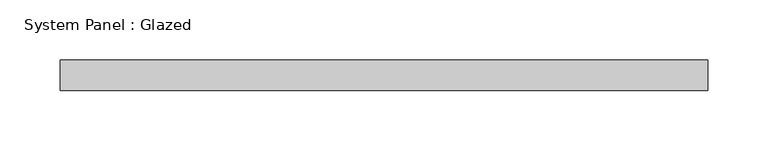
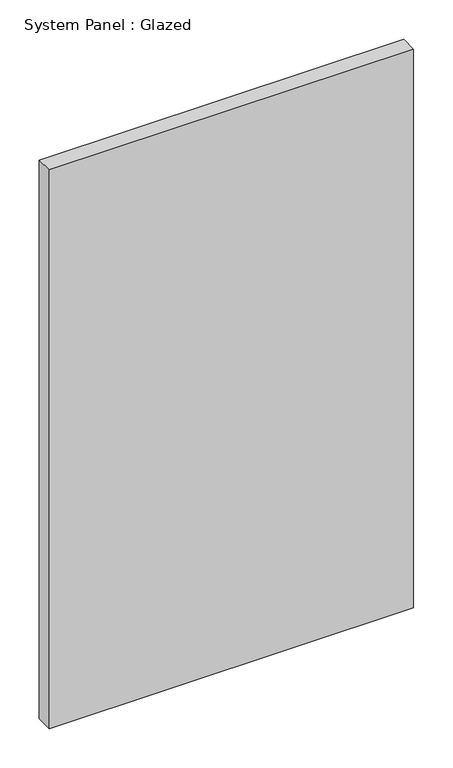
"""IFC4 building model written with IfcOpenShell, lengths in millimetres: plate geometry, System Panel : Glazed."""

from ifc_helpers import new_model, si_unit, origin, origin_with_axes, place, context, project, spatial, polyline, outline, extrude, source, transform, mapped, element, save


def system_panel_glazed_4efe49fa(model_context):
    return source(origin(), model_context, "Body", "SweptSolid", [
        extrude(outline(polyline([(267.5, 24.5), (-267.5, 24.5), (-267.5, 49.5), (267.5, 49.5), (267.5, 24.5)])), origin_with_axes(), (0.0, 0.0, 1.0), 866.6666667),
    ])


if __name__ == "__main__":
    model = new_model("IFC4")
    model_context = context("Model", 3, world=origin())
    ifc_project = project(units=[si_unit("LENGTHUNIT", "METRE", prefix="MILLI")], contexts=[model_context])
    site = spatial("IfcSite", under=ifc_project)
    building = spatial("IfcBuilding", under=site)
    placement = place(None, origin())
    system_panel_glazed_shape = system_panel_glazed_4efe49fa(model_context)
    element("IfcPlate", 1, ObjectType="System Panel : Glazed", at=placement, inside=building, context=model_context, shape_type="MappedRepresentation", body=[
        mapped(system_panel_glazed_shape, transform((0.0, 0.0, 0.0), x_axis=(1.0, 0.0, 0.0), y_axis=(0.0, 1.0, 0.0), z_axis=(0.0, 0.0, 1.0))),
    ])
    save(model, "model.ifc")
